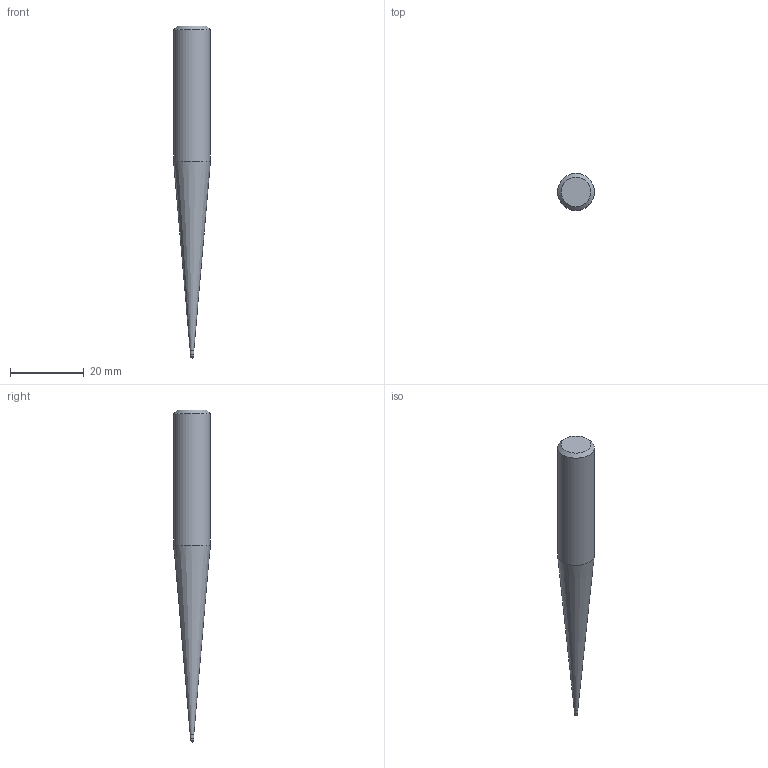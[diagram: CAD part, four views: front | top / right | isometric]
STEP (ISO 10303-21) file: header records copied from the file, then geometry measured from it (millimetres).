
FILE_DESCRIPTION((''),'2;1');
FILE_NAME('C:\Users\nsx150\AppData\Local\Temp\Mastercam 2021\SNAKH10GOD\TEMP.step','2021-10-21T13:32:31',(''),(''),'STEP Write','Mastercam 2021 ... CNC Software, Inc.','');
FILE_SCHEMA(('AUTOMOTIVE_DESIGN'));
Length unit declared in the file: millimetre
Products named in the file (1): None
Bounding box: 10 x 10 x 90 mm (x, y, z)
Volume: 4352.6 mm3; surface area: 2106.8 mm2
Topology: 2 solids, 2 shells, 9 faces, 14 edges, 8 vertices
Faces by surface type: plane 3, cylinder 3, cone 2, sphere 1
Full cylindrical faces by diameter (mm): 0.985 x1, 1 x1, 10 x1
Entity records: 211 total; most frequent: DIRECTION 36, CARTESIAN_POINT 25, AXIS2_PLACEMENT_3D 18, ORIENTED_EDGE 14, EDGE_LOOP 14, STYLED_ITEM 12, ADVANCED_FACE 9, FACE_BOUND 8
